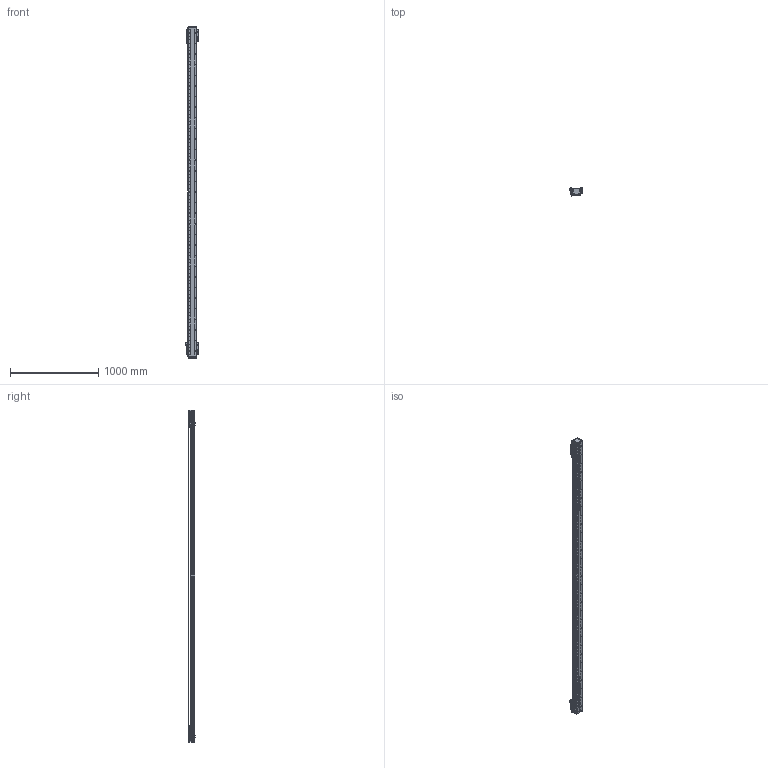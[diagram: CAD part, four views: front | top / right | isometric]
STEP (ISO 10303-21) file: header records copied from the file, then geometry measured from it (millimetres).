
FILE_DESCRIPTION (( 'STEP AP203' ), '1' );
FILE_NAME ('DA-B95-2-B15-T3380-C010-0.2 直线电机.STEP', '2023-05-06T06:48:38', ( '微软用户' ), ( '微软中国' ), 'SwSTEP 2.0', 'SolidWorks 2019', '' );
FILE_SCHEMA (( 'CONFIG_CONTROL_DESIGN' ));
Length unit declared in the file: millimetre
Products named in the file (34): 葩璃 DA95-GT-T-00^IU-BU95-L 菁釱絳寢_DA95; 复件 DA95-B15-YB-A-00 压板A^66245-BU95-V 滚珠滑台; 复件 复件 18252-0001-003-00 钢带拉块^DA-A95-B15-T-C010-0.2-N 直线电机; 复件 六角薄螺母 M3^DA-A95-B15-T-C010-0.2-N 直线电机_GB_FASTENER_NUT_STNAB M3-C; 66245-BU95-V-00 珨极趙賑雄怢啣; 复件 66245-BU95-HT-V-01 滑动台板^66245-BU95-V-00 一体化滑动台板; DA-B95-2-B15-T3380-C010-0.2 眻盄萇儂; LMDK-2-R001-V5-L02-C1-F00，0.2M 读数头^DA-A95-B15-T-C010-0.2-N 直线电机_DMA-010-0.2; 复件 DA95-B15-YB-B-00 压板B^66245-BU95-V 滚珠滑台; 葩璃 PM-Y45^DA-A95-B15-T-C010-0.2-N 眻盄萇儂; 复件 DA95-HK-GT-00 滑块钢轨^66245-BU95-V-00 一体化滑动台板; 复件 DKW-HXJ-JY-00 缓冲橡胶^DA-A95-B15-T-C010-0.2-N 直线电机; B15 XD-U-02L ｴﾅﾕ､ｳﾟ^DA-A95-B15-T-C010-0.2-N ﾖｱﾏﾟｵ扈銈XD-U-02L; 66245-BU95-V 幗紩賑怢; PM-T45 光电开关^DA-A95-B15-T-C010-0.2-N 直线电机; 复件 DA95-DB-00  挡板^66245-BU95-V 滚珠滑台; 葩璃 DA95-B15-DP--B-00 菜えB^66245-BU95-V 幗紩賑怢; IU-BU95-L 菁釱絳寢; DA-A95-GYP-00 光电感应片^DA-A95-B15-T-C010-0.2-N 直线电机; 复件 复件 18252-0001-002-00 钢带垫块^DA-A95-B15-T-C010-0.2-N 直线电机; DA95-HXJ-00 缓冲橡胶^DA-A95-B15-T-C010-0.2-N 直线电机; 复件 纯铜油杯 6x6mm^66245-BU95-V 滚珠滑台; 复件 DA95-MFP-01 密封片^66245-BU95-V 滚珠滑台; 葩璃 BKM015-W060-C1-TP-DA-0.2^DA-A95-B15-T-C010-0.2-N 眻盄萇儂; 葩璃 BKMA01-W060-TRL^DA-A95-B15-T-C010-0.2-N 眻盄萇儂; 复件 DKW-KGZ-ZJ-00 中间光电开关支架^DA-A95-B15-T-C010-0.2-N 直线电机; 复件 DKW-GYP-ZJ-00 中间光电感应片^DA-A95-B15-T-C010-0.2-N 直线电机; IU-BU95-L-00 菁釱_L3720; 复件 复件 18252-0001-004-00 钢带端盖^DA-A95-B15-T-C010-0.2-N 直线电机; 复件 DA95-DK-00 挡块^66245-BU95-V 滚珠滑台; 复件 DA95-B15 钢带盖板^DA-A95-B15-T-C010-0.2-N 直线电机; 葩璃 DA95-B15-DP-A-00 菜えA^66245-BU95-V 幗紩賑怢
Assembly tree (80 placements, depth 4):
  DA-B95-2-B15-T3380-C010-0.2 眻盄萇儂
    IU-BU95-L 菁釱絳寢
      IU-BU95-L-00 菁釱_L3720
      葩璃 DA95-GT-T-00^IU-BU95-L 菁釱絳寢_DA95  x2
    66245-BU95-V 幗紩賑怢
      66245-BU95-V-00 珨极趙賑雄怢啣
        复件 66245-BU95-HT-V-01 滑动台板^66245-BU95-V-00 一体化滑动台板
        复件 DA95-HK-GT-00 滑块钢轨^66245-BU95-V-00 一体化滑动台板  x2
      葩璃 DA95-B15-DP-A-00 菜えA^66245-BU95-V 幗紩賑怢
      复件 DA95-B15-YB-A-00 压板A^66245-BU95-V 滚珠滑台
      复件 DA95-B15-YB-B-00 压板B^66245-BU95-V 滚珠滑台
      复件 DA95-DB-00  挡板^66245-BU95-V 滚珠滑台  x4
      复件 DA95-DK-00 挡块^66245-BU95-V 滚珠滑台  x2
      复件 DA95-MFP-01 密封片^66245-BU95-V 滚珠滑台  x4
      复件 纯铜油杯 6x6mm^66245-BU95-V 滚珠滑台  x2
      葩璃 DA95-B15-DP--B-00 菜えB^66245-BU95-V 幗紩賑怢
    66245-BU95-V 幗紩賑怢
      66245-BU95-V-00 珨极趙賑雄怢啣
        复件 66245-BU95-HT-V-01 滑动台板^66245-BU95-V-00 一体化滑动台板
        复件 DA95-HK-GT-00 滑块钢轨^66245-BU95-V-00 一体化滑动台板  x2
      葩璃 DA95-B15-DP-A-00 菜えA^66245-BU95-V 幗紩賑怢
      复件 DA95-B15-YB-A-00 压板A^66245-BU95-V 滚珠滑台
      复件 DA95-B15-YB-B-00 压板B^66245-BU95-V 滚珠滑台
      复件 DA95-DB-00  挡板^66245-BU95-V 滚珠滑台  x4
      复件 DA95-DK-00 挡块^66245-BU95-V 滚珠滑台  x2
      复件 DA95-MFP-01 密封片^66245-BU95-V 滚珠滑台  x4
      复件 纯铜油杯 6x6mm^66245-BU95-V 滚珠滑台  x2
      葩璃 DA95-B15-DP--B-00 菜えB^66245-BU95-V 幗紩賑怢
    DA-A95-GYP-00 光电感应片^DA-A95-B15-T-C010-0.2-N 直线电机  x2
    LMDK-2-R001-V5-L02-C1-F00，0.2M 读数头^DA-A95-B15-T-C010-0.2-N 直线电机_DMA-010-0.2  x2
    复件 DKW-KGZ-ZJ-00 中间光电开关支架^DA-A95-B15-T-C010-0.2-N 直线电机
    葩璃 PM-Y45^DA-A95-B15-T-C010-0.2-N 眻盄萇儂
    复件 DKW-GYP-ZJ-00 中间光电感应片^DA-A95-B15-T-C010-0.2-N 直线电机
    葩璃 BKM015-W060-C1-TP-DA-0.2^DA-A95-B15-T-C010-0.2-N 眻盄萇儂  x2
    复件 DKW-HXJ-JY-00 缓冲橡胶^DA-A95-B15-T-C010-0.2-N 直线电机  x2
    PM-T45 光电开关^DA-A95-B15-T-C010-0.2-N 直线电机  x4
    B15 XD-U-02L ｴﾅﾕ､ｳﾟ^DA-A95-B15-T-C010-0.2-N ﾖｱﾏﾟｵ扈銈XD-U-02L
    复件 复件 18252-0001-003-00 钢带拉块^DA-A95-B15-T-C010-0.2-N 直线电机  x2
    复件 复件 18252-0001-002-00 钢带垫块^DA-A95-B15-T-C010-0.2-N 直线电机  x2
    复件 复件 18252-0001-004-00 钢带端盖^DA-A95-B15-T-C010-0.2-N 直线电机  x2
    复件 DA95-B15 钢带盖板^DA-A95-B15-T-C010-0.2-N 直线电机
    DA95-HXJ-00 缓冲橡胶^DA-A95-B15-T-C010-0.2-N 直线电机  x4
    葩璃 BKMA01-W060-TRL^DA-A95-B15-T-C010-0.2-N 眻盄萇儂
    复件 六角薄螺母 M3^DA-A95-B15-T-C010-0.2-N 直线电机_GB_FASTENER_NUT_STNAB M3-C  x6
Bounding box: 145.4 x 90.2 x 3756 mm (x, y, z)
Volume: 11603492.8 mm3; surface area: 3893424.1 mm2
Topology: 75 solids, 93 shells, 4724 faces, 13756 edges, 8783 vertices
Faces by surface type: cylinder 2557, plane 1635, cone 464, torus 64, sphere 4
Entity records: 126944 total; most frequent: CARTESIAN_POINT 35358, ORIENTED_EDGE 18870, DIRECTION 17780, EDGE_CURVE 9435, AXIS2_PLACEMENT_3D 6821, VERTEX_POINT 6185, VECTOR 4138, LINE 4138
